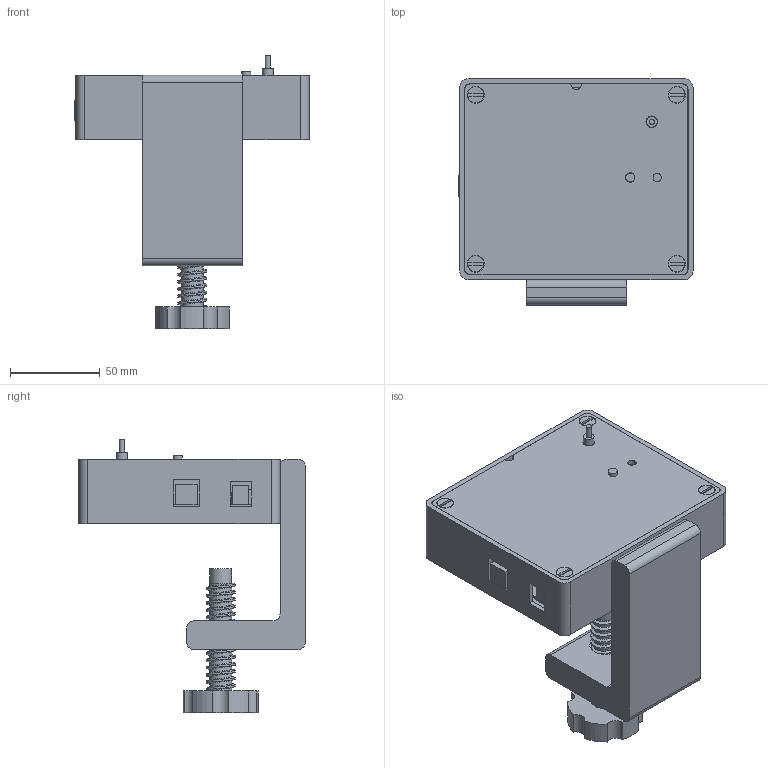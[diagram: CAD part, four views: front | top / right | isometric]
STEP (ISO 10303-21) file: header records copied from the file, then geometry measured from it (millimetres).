
FILE_DESCRIPTION(('Open CASCADE Model'),'2;1');
FILE_NAME('Open CASCADE Shape Model','2026-09-21T16:58:42',('Author'),( 'Open CASCADE'),'Open CASCADE STEP processor 7.9','Open CASCADE 7.9' ,'Unknown');
FILE_SCHEMA(('AUTOMOTIVE_DESIGN { 1 0 10303 214 1 1 1 1 }'));
Length unit declared in the file: millimetre
Products named in the file (35): UNO_AMP_B041_frames; Box; AMP_B041_0; AMP_B041_1; AMP_B041_2; AMP_B041_3; AMP_B041_4; AMP_B041_5; AMP_B041_6; AMP_B041_7; AMP_B041_8; AMP_B041_9; Existing_0; Existing_1; Existing_2; Existing_3; Existing_4; Existing_5; Existing_6; Existing_7; Existing_8; Existing_9; Existing_10; Existing_11; Existing_12; Existing_13; Existing_14; Existing_15; Existing_16; Existing_17; Existing_18; Existing_19; Existing_20; Existing_21; Existing_22
Assembly tree (34 placements, depth 2):
  UNO_AMP_B041_frames
    Box
    AMP_B041_0
    AMP_B041_1
    AMP_B041_2
    AMP_B041_3
    AMP_B041_4
    AMP_B041_5
    AMP_B041_6
    AMP_B041_7
    AMP_B041_8
    AMP_B041_9
    Existing_0
    Existing_1
    Existing_2
    Existing_3
    Existing_4
    Existing_5
    Existing_6
    Existing_7
    Existing_8
    Existing_9
    Existing_10
    Existing_11
    Existing_12
    Existing_13
    Existing_14
    Existing_15
    Existing_16
    Existing_17
    Existing_18
    Existing_19
    Existing_20
    Existing_21
    Existing_22
Bounding box: 130.34 x 126 x 152 mm (x, y, z)
Volume: 355016.9 mm3; surface area: 164982.3 mm2
Topology: 34 solids, 34 shells, 638 faces, 1535 edges, 1013 vertices
Faces by surface type: plane 345, cylinder 216, bspline 54, cone 23
Full cylindrical faces by diameter (mm): 3 x1, 3.2 x4, 4.6 x41, 5 x33, 5.2 x1, 5.8 x1, 6 x1, 6.5 x1, 6.6 x2, 6.8 x8, 9 x8, 9.4 x4, 10 x4, 11 x4, 12 x1, 12.2 x1, 12.4 x14, 12.8 x2, 13.3 x1, 17.2 x1
Entity records: 100170 total; most frequent: CARTESIAN_POINT 70124, DIRECTION 4799, ORIENTED_EDGE 3070, PCURVE 3070, DEFINITIONAL_REPRESENTATION 3070, LINE 2829, VECTOR 2829, EDGE_CURVE 1535
